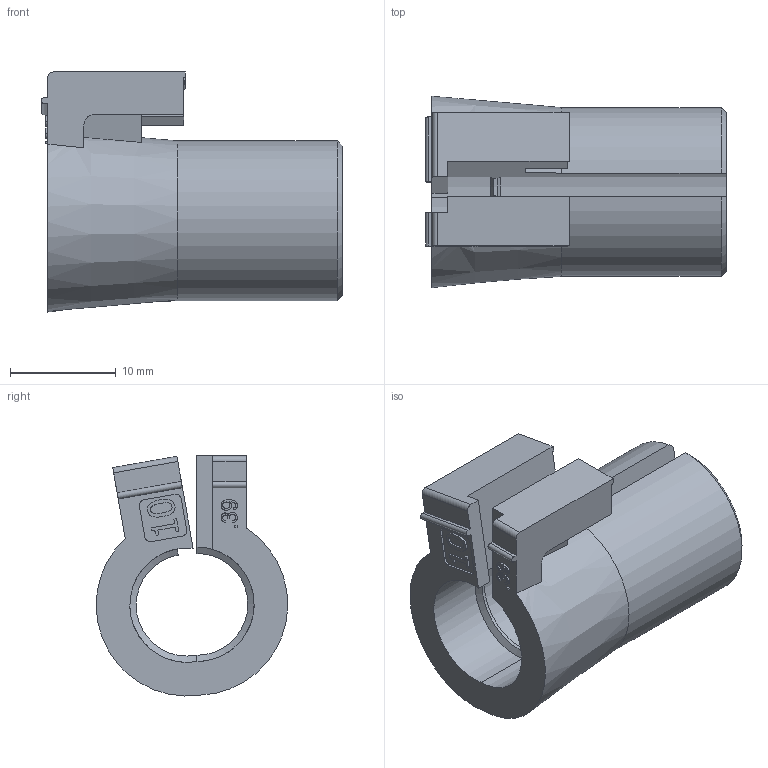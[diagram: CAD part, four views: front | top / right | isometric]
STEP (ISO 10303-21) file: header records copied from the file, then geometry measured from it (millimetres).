
FILE_DESCRIPTION(/* description */ (''),/* implementation_level */ '2;1');
FILE_NAME(/* name */ 'C:\SapWorkDir\Inventor\MP1\ConvertTempPath\87_12_121354_00_A_220530_KDT-X 10.stp',/* time_stamp */ '2022-05-31T10:23:10+02:00',/* author */ ('BAUER'),/* organization */ (''),/* preprocessor_version */ 'ST-DEVELOPER v16.13',/* originating_system */ 'Autodesk Inventor 2018',/* authorisation */ '');
FILE_SCHEMA (('AUTOMOTIVE_DESIGN { 1 0 10303 214 3 1 1 }'));
Length unit declared in the file: millimetre
Products named in the file (1): 121354
Bounding box: 28.4 x 18.07 x 22.65 mm (x, y, z)
Volume: 3290.8 mm3; surface area: 3198.9 mm2
Topology: 1 solids, 1 shells, 133 faces, 363 edges, 240 vertices
Faces by surface type: plane 65, bspline 40, cylinder 20, cone 8
Entity records: 4504 total; most frequent: CARTESIAN_POINT 1283, ORIENTED_EDGE 726, DIRECTION 517, EDGE_CURVE 363, VERTEX_POINT 240, LINE 221, VECTOR 221, AXIS2_PLACEMENT_3D 148
